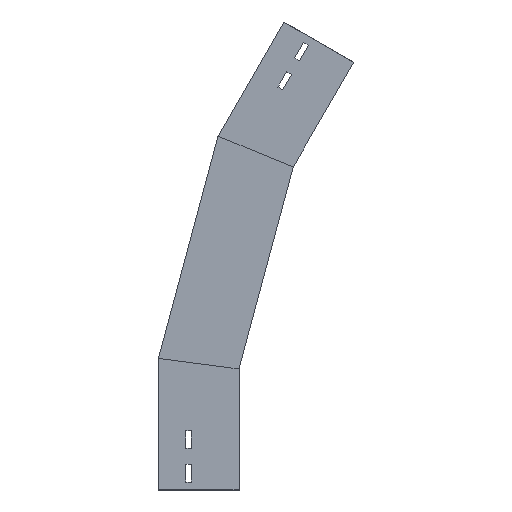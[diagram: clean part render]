
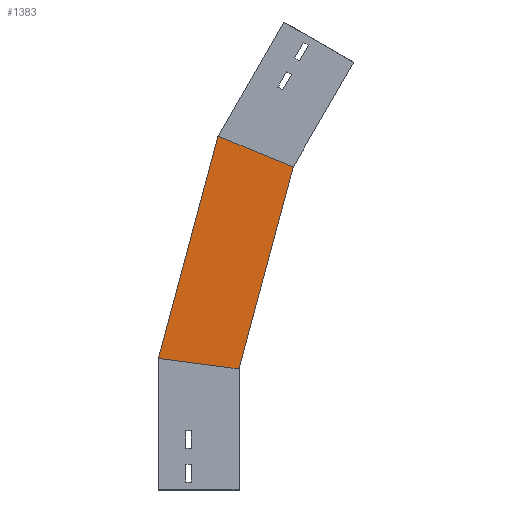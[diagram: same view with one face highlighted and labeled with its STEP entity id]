
A CAD part, left-side view. The second image highlights one B-rep face of the part: STEP entity #1383.
In plain terms, the highlighted planar face has unit normal (-1, 0, 0) as drawn and (1, 0, 0) by its records, which use the part's own axes.
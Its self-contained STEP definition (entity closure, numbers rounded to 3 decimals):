
#14 = VECTOR ( 'NONE', #832, 1000. ) ;
#21 = DIRECTION ( 'NONE',  ( 0., -0.924, -0.383 ) ) ;
#109 = VERTEX_POINT ( 'NONE', #1195 ) ;
#145 = EDGE_CURVE ( 'NONE', #911, #208, #1311, .T. ) ;
#208 = VERTEX_POINT ( 'NONE', #1048 ) ;
#215 = ORIENTED_EDGE ( 'NONE', *, *, #238, .T. ) ;
#238 = EDGE_CURVE ( 'NONE', #1121, #109, #1075, .T. ) ;
#288 = CARTESIAN_POINT ( 'NONE',  ( 0., 100.367, 161.797 ) ) ;
#293 = DIRECTION ( 'NONE',  ( 0., -0.259, 0.966 ) ) ;
#391 = CARTESIAN_POINT ( 'NONE',  ( 0., 3.774, 135.915 ) ) ;
#404 = AXIS2_PLACEMENT_3D ( 'NONE', #391, #854, #1279 ) ;
#417 = ORIENTED_EDGE ( 'NONE', *, *, #711, .T. ) ;
#431 = VECTOR ( 'NONE', #547, 1000. ) ;
#547 = DIRECTION ( 'NONE',  ( 0., -0.259, 0.966 ) ) ;
#592 = ORIENTED_EDGE ( 'NONE', *, *, #145, .F. ) ;
#617 = CARTESIAN_POINT ( 'NONE',  ( 0., -19.411, 147.444 ) ) ;
#711 = EDGE_CURVE ( 'NONE', #911, #1121, #736, .T. ) ;
#736 = LINE ( 'NONE', #288, #431 ) ;
#741 = ORIENTED_EDGE ( 'NONE', *, *, #956, .F. ) ;
#832 = DIRECTION ( 'NONE',  ( 0., -0.991, -0.131 ) ) ;
#854 = DIRECTION ( 'NONE',  ( 1., 0., 0. ) ) ;
#866 = CARTESIAN_POINT ( 'NONE',  ( 0., 3.774, 135.915 ) ) ;
#899 = VECTOR ( 'NONE', #21, 1000. ) ;
#911 = VERTEX_POINT ( 'NONE', #1206 ) ;
#942 = CARTESIAN_POINT ( 'NONE',  ( 0., -100.025, 386.509 ) ) ;
#956 = EDGE_CURVE ( 'NONE', #208, #109, #997, .T. ) ;
#969 = PLANE ( 'NONE',  #404 ) ;
#997 = LINE ( 'NONE', #866, #1242 ) ;
#1048 = CARTESIAN_POINT ( 'NONE',  ( 0., 0., 150. ) ) ;
#1052 = FACE_OUTER_BOUND ( 'NONE', #1139, .T. ) ;
#1075 = LINE ( 'NONE', #942, #899 ) ;
#1121 = VERTEX_POINT ( 'NONE', #1419 ) ;
#1139 = EDGE_LOOP ( 'NONE', ( #417, #215, #741, #592 ) ) ;
#1195 = CARTESIAN_POINT ( 'NONE',  ( 0., -67.034, 400.175 ) ) ;
#1206 = CARTESIAN_POINT ( 'NONE',  ( 0., 100., 163.165 ) ) ;
#1242 = VECTOR ( 'NONE', #293, 1000. ) ;
#1279 = DIRECTION ( 'NONE',  ( 0., 0., -1. ) ) ;
#1311 = LINE ( 'NONE', #617, #14 ) ;
#1383 = ADVANCED_FACE ( 'NONE', ( #1052 ), #969, .T. ) ;
#1419 = CARTESIAN_POINT ( 'NONE',  ( 0., 26.151, 438.773 ) ) ;
